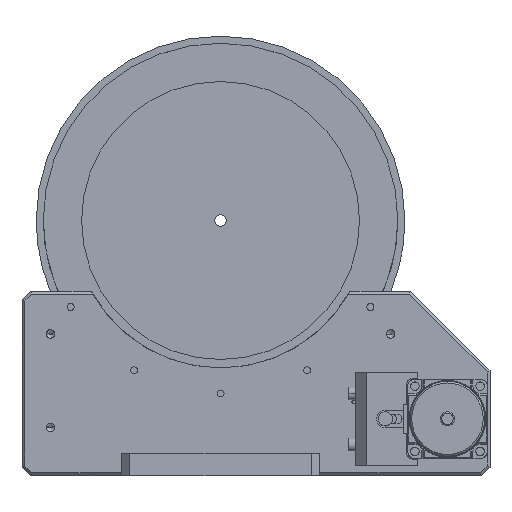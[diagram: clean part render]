
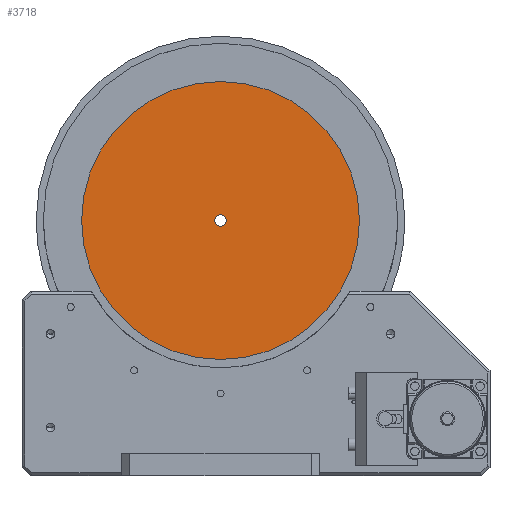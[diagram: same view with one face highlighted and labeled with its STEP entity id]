
A CAD part, top view. The second image highlights one B-rep face of the part: STEP entity #3718.
In plain terms, the highlighted planar face has unit normal (0, 0, 1).
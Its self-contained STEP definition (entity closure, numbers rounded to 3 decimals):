
#3718 = ADVANCED_FACE ( 'NONE', ( #21604, #21603 ), #21602, .F. ) ;
#3719 = EDGE_LOOP ( 'NONE', ( #3720, #3722 ) ) ;
#3720 = ORIENTED_EDGE ( 'NONE', *, *, #3721, .T. ) ;
#3721 = EDGE_CURVE ( 'NONE', #13835, #13813, #21597, .T. ) ;
#3722 = ORIENTED_EDGE ( 'NONE', *, *, #13784, .T. ) ;
#3723 = EDGE_LOOP ( 'NONE', ( #3724, #3725 ) ) ;
#3724 = ORIENTED_EDGE ( 'NONE', *, *, #13791, .T. ) ;
#3725 = ORIENTED_EDGE ( 'NONE', *, *, #3726, .T. ) ;
#3726 = EDGE_CURVE ( 'NONE', #13790, #13789, #21592, .T. ) ;
#13784 = EDGE_CURVE ( 'NONE', #13813, #13835, #40600, .T. ) ;
#13789 = VERTEX_POINT ( 'NONE', #40649 ) ;
#13790 = VERTEX_POINT ( 'NONE', #40648 ) ;
#13791 = EDGE_CURVE ( 'NONE', #13789, #13790, #40647, .T. ) ;
#13813 = VERTEX_POINT ( 'NONE', #40664 ) ;
#13835 = VERTEX_POINT ( 'NONE', #40743 ) ;
#21588 = DIRECTION ( 'NONE',  ( 1., 0., 0. ) ) ;
#21589 = DIRECTION ( 'NONE',  ( 0., 0., -1. ) ) ;
#21590 = CARTESIAN_POINT ( 'NONE',  ( 70., 90., 6.25 ) ) ;
#21591 = AXIS2_PLACEMENT_3D ( 'NONE', #21590, #21589, #21588 ) ;
#21592 = CIRCLE ( 'NONE', #21591, 2. ) ;
#21593 = DIRECTION ( 'NONE',  ( 1., 0., 0. ) ) ;
#21594 = DIRECTION ( 'NONE',  ( 0., 0., 1. ) ) ;
#21595 = CARTESIAN_POINT ( 'NONE',  ( 70., 90., 6.25 ) ) ;
#21596 = AXIS2_PLACEMENT_3D ( 'NONE', #21595, #21594, #21593 ) ;
#21597 = CIRCLE ( 'NONE', #21596, 49. ) ;
#21598 = DIRECTION ( 'NONE',  ( -1., 0., 0. ) ) ;
#21599 = DIRECTION ( 'NONE',  ( 0., 0., -1. ) ) ;
#21600 = CARTESIAN_POINT ( 'NONE',  ( 70., 90., 6.25 ) ) ;
#21601 = AXIS2_PLACEMENT_3D ( 'NONE', #21600, #21599, #21598 ) ;
#21602 = PLANE ( 'NONE',  #21601 ) ;
#21603 = FACE_BOUND ( 'NONE', #3723, .T. ) ;
#21604 = FACE_OUTER_BOUND ( 'NONE', #3719, .T. ) ;
#40596 = DIRECTION ( 'NONE',  ( 1., 0., 0. ) ) ;
#40597 = DIRECTION ( 'NONE',  ( 0., 0., 1. ) ) ;
#40598 = CARTESIAN_POINT ( 'NONE',  ( 70., 90., 6.25 ) ) ;
#40599 = AXIS2_PLACEMENT_3D ( 'NONE', #40598, #40597, #40596 ) ;
#40600 = CIRCLE ( 'NONE', #40599, 49. ) ;
#40643 = DIRECTION ( 'NONE',  ( 1., 0., 0. ) ) ;
#40644 = DIRECTION ( 'NONE',  ( 0., 0., -1. ) ) ;
#40645 = CARTESIAN_POINT ( 'NONE',  ( 70., 90., 6.25 ) ) ;
#40646 = AXIS2_PLACEMENT_3D ( 'NONE', #40645, #40644, #40643 ) ;
#40647 = CIRCLE ( 'NONE', #40646, 2. ) ;
#40648 = CARTESIAN_POINT ( 'NONE',  ( 68., 90., 6.25 ) ) ;
#40649 = CARTESIAN_POINT ( 'NONE',  ( 72., 90., 6.25 ) ) ;
#40664 = CARTESIAN_POINT ( 'NONE',  ( 21., 90., 6.25 ) ) ;
#40743 = CARTESIAN_POINT ( 'NONE',  ( 119., 90., 6.25 ) ) ;
